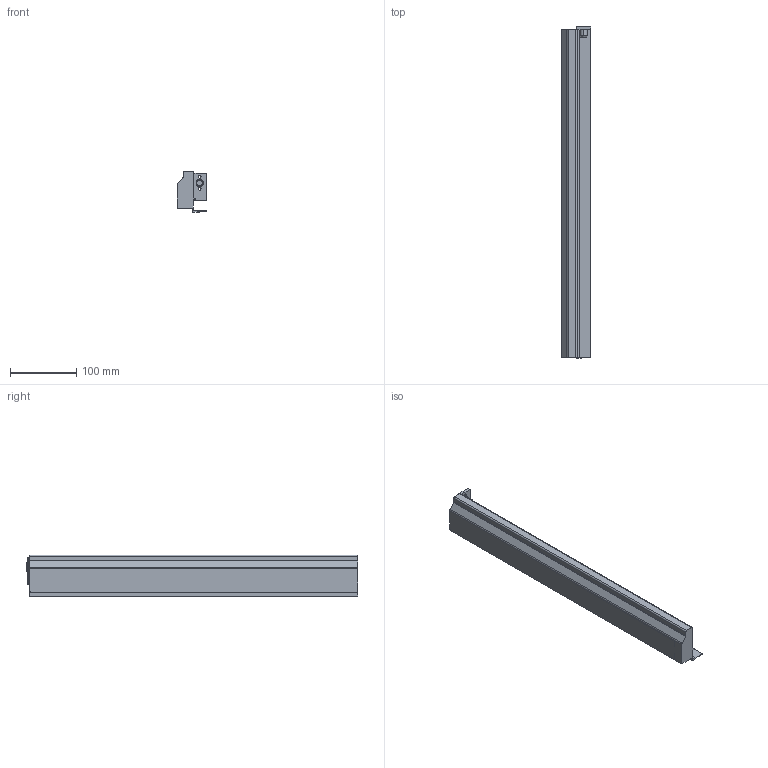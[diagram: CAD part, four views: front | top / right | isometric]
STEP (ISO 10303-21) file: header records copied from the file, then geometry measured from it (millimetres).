
FILE_DESCRIPTION (( 'STEP AP214' ), '1' );
FILE_NAME ('IMOS_NOVA-Pro_Dekor-H63_CL_NL500_LI.step', '2010-09-28T15:26:12', ( 'grass' ), ( '' ), 'SwSTEP 2.0', 'SolidWorks 2010', '' );
FILE_SCHEMA (( 'AUTOMOTIVE_DESIGN' ));
Length unit declared in the file: millimetre
Products named in the file (1): IMOS_NOVA-Pro_Dekor-H63_CL_NL500_LI
Bounding box: 44.3 x 502.7 x 63.49 mm (x, y, z)
Volume: 240113 mm3; surface area: 144801.9 mm2
Topology: 1 solids, 1 shells, 69 faces, 186 edges, 121 vertices
Faces by surface type: plane 41, cylinder 23, cone 4, bspline 1
Entity records: 2206 total; most frequent: CARTESIAN_POINT 390, DIRECTION 375, ORIENTED_EDGE 372, EDGE_CURVE 186, LINE 131, VECTOR 131, AXIS2_PLACEMENT_3D 122, VERTEX_POINT 121
